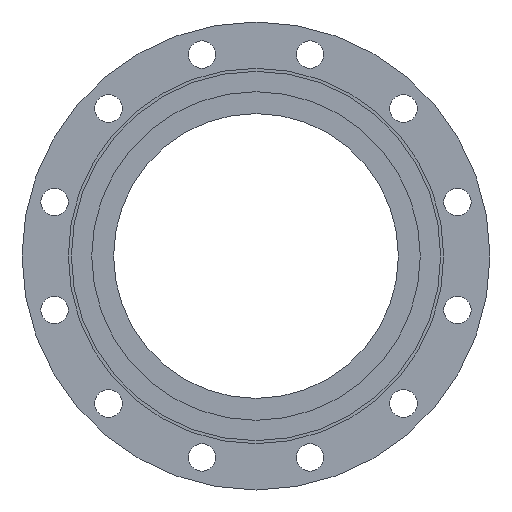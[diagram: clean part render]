
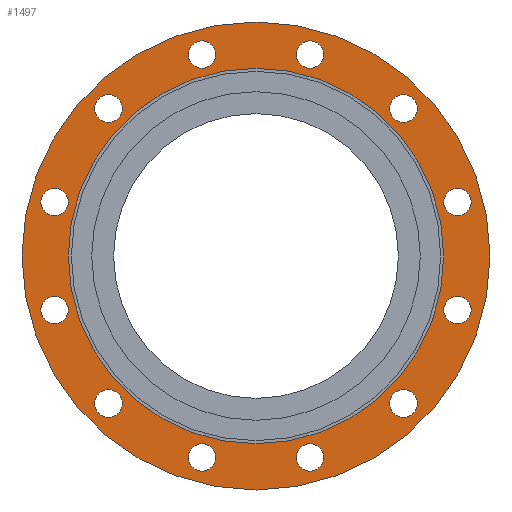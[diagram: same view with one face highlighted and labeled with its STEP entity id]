
A CAD part, left-side view. The second image highlights one B-rep face of the part: STEP entity #1497.
In plain terms, the highlighted planar face has unit normal (-1, 0, 0).
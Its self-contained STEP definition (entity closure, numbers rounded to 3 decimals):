
#1497=ADVANCED_FACE('',(#9280,#9282,#9284,#9286,#9288,#9290,#9292,#9294,#9296,#9298,
#9300,#9302,#9304,#9306),#9308,.T.);
#9280=FACE_BOUND('',#9281,.T.);
#9281=EDGE_LOOP('',(#15922,#15923));
#9282=FACE_BOUND('',#9283,.T.);
#9283=EDGE_LOOP('',(#15924));
#9284=FACE_BOUND('',#9285,.T.);
#9285=EDGE_LOOP('',(#15925));
#9286=FACE_BOUND('',#9287,.T.);
#9287=EDGE_LOOP('',(#15926));
#9288=FACE_BOUND('',#9289,.T.);
#9289=EDGE_LOOP('',(#15927));
#9290=FACE_BOUND('',#9291,.T.);
#9291=EDGE_LOOP('',(#15928));
#9292=FACE_BOUND('',#9293,.T.);
#9293=EDGE_LOOP('',(#15929));
#9294=FACE_BOUND('',#9295,.T.);
#9295=EDGE_LOOP('',(#15930));
#9296=FACE_BOUND('',#9297,.T.);
#9297=EDGE_LOOP('',(#15931));
#9298=FACE_BOUND('',#9299,.T.);
#9299=EDGE_LOOP('',(#15932));
#9300=FACE_BOUND('',#9301,.T.);
#9301=EDGE_LOOP('',(#15933));
#9302=FACE_BOUND('',#9303,.T.);
#9303=EDGE_LOOP('',(#15934));
#9304=FACE_BOUND('',#9305,.T.);
#9305=EDGE_LOOP('',(#15935));
#9306=FACE_BOUND('',#9307,.T.);
#9307=EDGE_LOOP('',(#15936,#15937));
#9308=PLANE('',#9309);
#9309=AXIS2_PLACEMENT_3D('',#9310,#9311,#9312);
#9310=CARTESIAN_POINT('',(37.295,244.147,0.));
#9311=DIRECTION('',(-1.,0.,0.));
#9312=DIRECTION('',(0.,0.,1.));
#15922=ORIENTED_EDGE('',*,*,#20636,.F.);
#15923=ORIENTED_EDGE('',*,*,#20637,.F.);
#15924=ORIENTED_EDGE('',*,*,#20546,.T.);
#15925=ORIENTED_EDGE('',*,*,#20548,.T.);
#15926=ORIENTED_EDGE('',*,*,#20550,.T.);
#15927=ORIENTED_EDGE('',*,*,#20552,.T.);
#15928=ORIENTED_EDGE('',*,*,#20554,.T.);
#15929=ORIENTED_EDGE('',*,*,#20580,.T.);
#15930=ORIENTED_EDGE('',*,*,#20582,.T.);
#15931=ORIENTED_EDGE('',*,*,#20584,.T.);
#15932=ORIENTED_EDGE('',*,*,#20586,.T.);
#15933=ORIENTED_EDGE('',*,*,#20588,.T.);
#15934=ORIENTED_EDGE('',*,*,#20590,.T.);
#15935=ORIENTED_EDGE('',*,*,#20544,.T.);
#15936=ORIENTED_EDGE('',*,*,#20635,.T.);
#15937=ORIENTED_EDGE('',*,*,#20634,.T.);
#20544=EDGE_CURVE('',#24019,#24019,#24020,.T.);
#20546=EDGE_CURVE('',#24023,#24023,#24024,.T.);
#20548=EDGE_CURVE('',#24027,#24027,#24028,.T.);
#20550=EDGE_CURVE('',#24031,#24031,#24032,.T.);
#20552=EDGE_CURVE('',#24035,#24035,#24036,.T.);
#20554=EDGE_CURVE('',#24039,#24039,#24040,.T.);
#20580=EDGE_CURVE('',#24091,#24091,#24092,.T.);
#20582=EDGE_CURVE('',#24095,#24095,#24096,.T.);
#20584=EDGE_CURVE('',#24099,#24099,#24100,.T.);
#20586=EDGE_CURVE('',#24103,#24103,#24104,.T.);
#20588=EDGE_CURVE('',#24107,#24107,#24108,.T.);
#20590=EDGE_CURVE('',#24111,#24111,#24112,.T.);
#20634=EDGE_CURVE('',#24199,#24200,#24201,.T.);
#20635=EDGE_CURVE('',#24200,#24199,#24202,.T.);
#20636=EDGE_CURVE('',#24203,#24204,#24205,.T.);
#20637=EDGE_CURVE('',#24204,#24203,#24206,.T.);
#24019=VERTEX_POINT('',#32364);
#24020=CIRCLE('',#32365,13.5);
#24023=VERTEX_POINT('',#32374);
#24024=CIRCLE('',#32375,13.5);
#24027=VERTEX_POINT('',#32384);
#24028=CIRCLE('',#32385,13.5);
#24031=VERTEX_POINT('',#32394);
#24032=CIRCLE('',#32395,13.5);
#24035=VERTEX_POINT('',#32404);
#24036=CIRCLE('',#32405,13.5);
#24039=VERTEX_POINT('',#32414);
#24040=CIRCLE('',#32415,13.5);
#24091=VERTEX_POINT('',#32544);
#24092=CIRCLE('',#32545,13.5);
#24095=VERTEX_POINT('',#32554);
#24096=CIRCLE('',#32555,13.5);
#24099=VERTEX_POINT('',#32564);
#24100=CIRCLE('',#32565,13.5);
#24103=VERTEX_POINT('',#32574);
#24104=CIRCLE('',#32575,13.5);
#24107=VERTEX_POINT('',#32584);
#24108=CIRCLE('',#32585,13.5);
#24111=VERTEX_POINT('',#32594);
#24112=CIRCLE('',#32595,13.5);
#24199=VERTEX_POINT('',#32814);
#24200=VERTEX_POINT('',#32815);
#24201=CIRCLE('',#32816,184.5);
#24202=CIRCLE('',#32820,184.5);
#24203=VERTEX_POINT('',#32824);
#24204=VERTEX_POINT('',#32825);
#24205=CIRCLE('',#32826,230.);
#24206=CIRCLE('',#32830,230.);
#32364=CARTESIAN_POINT('',(37.295,198.662,-53.058));
#32365=AXIS2_PLACEMENT_3D('',#32366,#32367,#32368);
#32366=CARTESIAN_POINT('',(37.295,212.162,-53.058));
#32367=DIRECTION('',(1.,0.,0.));
#32368=DIRECTION('',(0.,-1.,0.));
#32374=CARTESIAN_POINT('',(37.295,145.604,144.957));
#32375=AXIS2_PLACEMENT_3D('',#32376,#32377,#32378);
#32376=CARTESIAN_POINT('',(37.295,159.104,144.957));
#32377=DIRECTION('',(1.,0.,0.));
#32378=DIRECTION('',(0.,-1.,0.));
#32384=CARTESIAN_POINT('',(37.295,-52.411,198.015));
#32385=AXIS2_PLACEMENT_3D('',#32386,#32387,#32388);
#32386=CARTESIAN_POINT('',(37.295,-38.911,198.015));
#32387=DIRECTION('',(1.,0.,0.));
#32388=DIRECTION('',(0.,-1.,0.));
#32394=CARTESIAN_POINT('',(37.295,-197.368,53.058));
#32395=AXIS2_PLACEMENT_3D('',#32396,#32397,#32398);
#32396=CARTESIAN_POINT('',(37.295,-183.868,53.058));
#32397=DIRECTION('',(1.,0.,0.));
#32398=DIRECTION('',(0.,-1.,0.));
#32404=CARTESIAN_POINT('',(37.295,-144.31,-144.957));
#32405=AXIS2_PLACEMENT_3D('',#32406,#32407,#32408);
#32406=CARTESIAN_POINT('',(37.295,-130.81,-144.957));
#32407=DIRECTION('',(1.,0.,0.));
#32408=DIRECTION('',(0.,-1.,0.));
#32414=CARTESIAN_POINT('',(37.295,53.705,-198.015));
#32415=AXIS2_PLACEMENT_3D('',#32416,#32417,#32418);
#32416=CARTESIAN_POINT('',(37.295,67.205,-198.015));
#32417=DIRECTION('',(1.,0.,0.));
#32418=DIRECTION('',(0.,-1.,0.));
#32544=CARTESIAN_POINT('',(37.295,-52.411,-198.015));
#32545=AXIS2_PLACEMENT_3D('',#32546,#32547,#32548);
#32546=CARTESIAN_POINT('',(37.295,-38.911,-198.015));
#32547=DIRECTION('',(1.,0.,0.));
#32548=DIRECTION('',(0.,-1.,0.));
#32554=CARTESIAN_POINT('',(37.295,-197.368,-53.058));
#32555=AXIS2_PLACEMENT_3D('',#32556,#32557,#32558);
#32556=CARTESIAN_POINT('',(37.295,-183.868,-53.058));
#32557=DIRECTION('',(1.,0.,0.));
#32558=DIRECTION('',(0.,-1.,0.));
#32564=CARTESIAN_POINT('',(37.295,-144.31,144.957));
#32565=AXIS2_PLACEMENT_3D('',#32566,#32567,#32568);
#32566=CARTESIAN_POINT('',(37.295,-130.81,144.957));
#32567=DIRECTION('',(1.,0.,0.));
#32568=DIRECTION('',(0.,-1.,0.));
#32574=CARTESIAN_POINT('',(37.295,53.705,198.015));
#32575=AXIS2_PLACEMENT_3D('',#32576,#32577,#32578);
#32576=CARTESIAN_POINT('',(37.295,67.205,198.015));
#32577=DIRECTION('',(1.,0.,0.));
#32578=DIRECTION('',(0.,-1.,0.));
#32584=CARTESIAN_POINT('',(37.295,198.662,53.058));
#32585=AXIS2_PLACEMENT_3D('',#32586,#32587,#32588);
#32586=CARTESIAN_POINT('',(37.295,212.162,53.058));
#32587=DIRECTION('',(1.,0.,0.));
#32588=DIRECTION('',(0.,-1.,0.));
#32594=CARTESIAN_POINT('',(37.295,145.604,-144.957));
#32595=AXIS2_PLACEMENT_3D('',#32596,#32597,#32598);
#32596=CARTESIAN_POINT('',(37.295,159.104,-144.957));
#32597=DIRECTION('',(1.,0.,0.));
#32598=DIRECTION('',(0.,-1.,0.));
#32814=CARTESIAN_POINT('',(37.295,-170.353,0.));
#32815=CARTESIAN_POINT('',(37.295,198.647,0.));
#32816=AXIS2_PLACEMENT_3D('',#32817,#32818,#32819);
#32817=CARTESIAN_POINT('',(37.295,14.147,0.));
#32818=DIRECTION('',(1.,0.,0.));
#32819=DIRECTION('',(0.,-1.,0.));
#32820=AXIS2_PLACEMENT_3D('',#32821,#32822,#32823);
#32821=CARTESIAN_POINT('',(37.295,14.147,0.));
#32822=DIRECTION('',(1.,0.,0.));
#32823=DIRECTION('',(0.,1.,0.));
#32824=CARTESIAN_POINT('',(37.295,-215.853,0.));
#32825=CARTESIAN_POINT('',(37.295,244.147,0.));
#32826=AXIS2_PLACEMENT_3D('',#32827,#32828,#32829);
#32827=CARTESIAN_POINT('',(37.295,14.147,0.));
#32828=DIRECTION('',(1.,0.,0.));
#32829=DIRECTION('',(0.,-1.,0.));
#32830=AXIS2_PLACEMENT_3D('',#32831,#32832,#32833);
#32831=CARTESIAN_POINT('',(37.295,14.147,0.));
#32832=DIRECTION('',(1.,0.,0.));
#32833=DIRECTION('',(0.,1.,0.));
